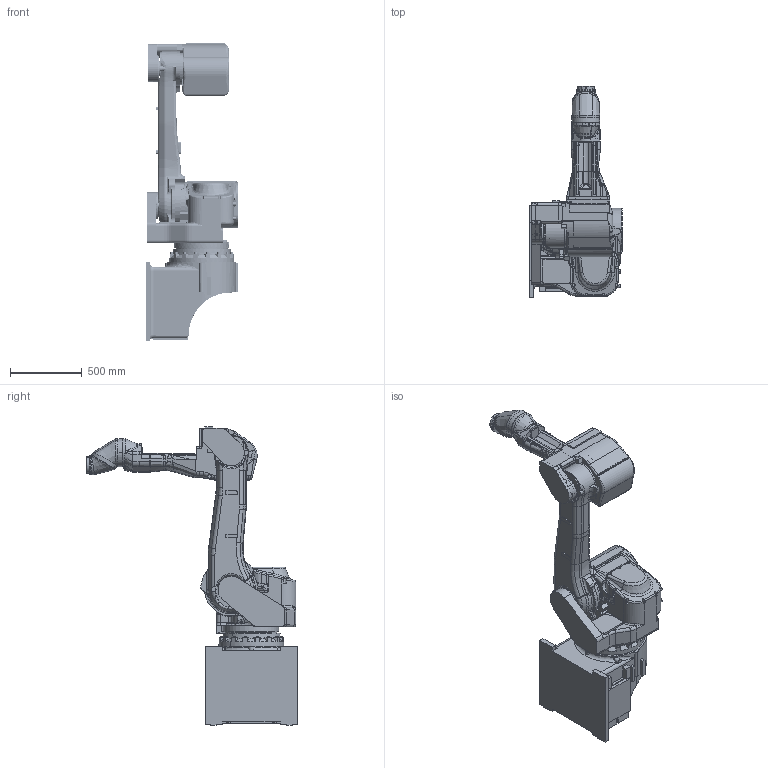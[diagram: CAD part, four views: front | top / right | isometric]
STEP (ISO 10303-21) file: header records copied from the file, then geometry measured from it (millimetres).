
FILE_DESCRIPTION(('CATIA V5 STEP Exchange'),'2;1');
FILE_NAME('F:\☆新しいフォルダ\【K-ROSET】\K-ROSET_モデル\ロボット\※ロボット\※K\☆150522_KJシリーズ一新\受領モデル\KJ\ASSY\○KJ194J-D001(kabe_2)\ASSY\STEP_160223\KJ194-D001.stp','2016-02-23T00:51:58+00:00',('none'),('none'),'CATIA Version 5-6 Release 2013 SP5 HF60','CATIA V5 STEP AP203','none');
FILE_SCHEMA(('CONFIG_CONTROL_DESIGN'));
Products named in the file (1): KJ194-D001
Assembly tree (7 placements, depth 2):
  KJ194-D001
    #57
    #21986
    #39136
    #72842
    #194820
    #195336
    #196454
Bounding box: 645 x 1465 x 2076 mm (x, y, z)
Volume: 168979171 mm3; surface area: 10858473.2 mm2
Topology: 7 solids, 86 shells, 4676 faces, 11699 edges, 7045 vertices
Faces by surface type: cylinder 1676, plane 1324, bspline 714, torus 462, cone 350, sphere 81, revolution 53, extrusion 16
Entity records: 197383 total; most frequent: CARTESIAN_POINT 100347, ORIENTED_EDGE 22732, DIRECTION 14445, EDGE_CURVE 11366, AXIS2_PLACEMENT_3D 7163, VERTEX_POINT 7045, EDGE_LOOP 4901, ADVANCED_FACE 4676
